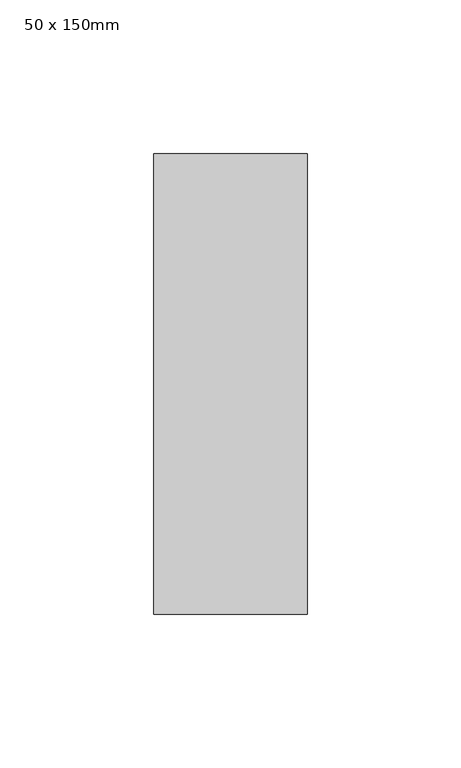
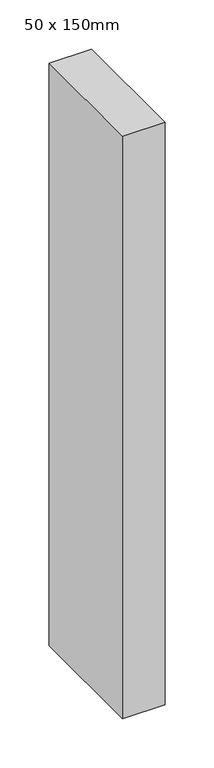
"""IFC4 building model written with IfcOpenShell, lengths in millimetres: member geometry, Прямоугольный импост : 50 x 150mm."""

from ifc_helpers import new_model, si_unit, frame, origin, place, context, project, spatial, polyline, outline, extrude, source, transform, mapped, element, save


def member_50_x_150mm_638a6aac(model_context):
    return source(origin(), model_context, "Body", "SweptSolid", [
        extrude(outline(polyline([(0.0, 75.0), (0.0, -75.0), (-50.0, -75.0), (-50.0, 75.0), (0.0, 75.0)])), frame((0.0, 0.0, -724.0774077), z_axis=(0.0, 0.0, 1.0), x_axis=(1.0, 0.0, 0.0)), (0.0, 0.0, 1.0), 724.0774077),
    ])


if __name__ == "__main__":
    model = new_model("IFC4")
    model_context = context("Model", 3, world=origin())
    ifc_project = project(units=[si_unit("LENGTHUNIT", "METRE", prefix="MILLI")], contexts=[model_context])
    site = spatial("IfcSite", under=ifc_project)
    building = spatial("IfcBuilding", under=site)
    placement = place(None, origin())
    member_50_x_150mm_shape = member_50_x_150mm_638a6aac(model_context)
    element("IfcMember", 1, ObjectType="Прямоугольный импост : 50 x 150mm", at=placement, inside=building, context=model_context, shape_type="MappedRepresentation", body=[
        mapped(member_50_x_150mm_shape, transform((0.0, 0.0, 0.0), x_axis=(1.0, 0.0, 0.0), y_axis=(0.0, 1.0, 0.0), z_axis=(0.0, 0.0, 1.0))),
    ])
    save(model, "model.ifc")
